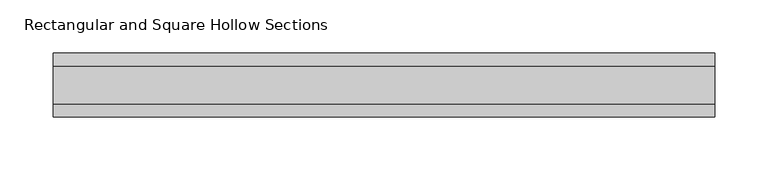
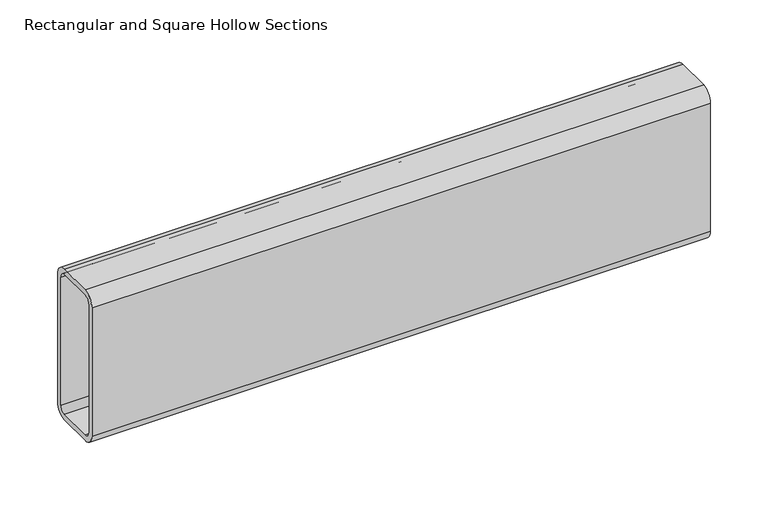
"""IFC4 building model written with IfcOpenShell, lengths in millimetres: beam geometry, Rectangular and Square Hollow Sections : TREC160x60x6."""

from ifc_helpers import new_model, si_unit, point, frame, frame_2d, origin, place, context, project, spatial, polyline, circle_curve, trimmed, segment, composite_curve, outline, extrude, source, transform, mapped, element, save


def rectangular_and_square_hollow_sections_c000528f(model_context):
    return source(origin(), model_context, "Body", "SweptSolid", [
        extrude(outline(composite_curve([segment(polyline([(30.0, 68.0), (30.0, -68.0)]), True, "CONTINUOUS"), segment(trimmed(circle_curve(frame_2d((18.0, -68.0)), 12.0), [point((30.0, -68.0))], [point((18.0, -80.0))], False, "CARTESIAN"), True, "CONTINUOUS"), segment(polyline([(18.0, -80.0), (-18.0, -80.0)]), True, "CONTINUOUS"), segment(trimmed(circle_curve(frame_2d((-18.0, -68.0)), 12.0), [point((-18.0, -80.0))], [point((-30.0, -68.0))], False, "CARTESIAN"), True, "CONTINUOUS"), segment(polyline([(-30.0, -68.0), (-30.0, 68.0)]), True, "CONTINUOUS"), segment(trimmed(circle_curve(frame_2d((-18.0, 68.0)), 12.0), [point((-30.0, 68.0))], [point((-18.0, 80.0))], False, "CARTESIAN"), True, "CONTINUOUS"), segment(polyline([(-18.0, 80.0), (18.0, 80.0)]), True, "CONTINUOUS"), segment(trimmed(circle_curve(frame_2d((18.0, 68.0)), 12.0), [point((18.0, 80.0))], [point((30.0, 68.0))], False, "CARTESIAN"), True, "CONTINUOUS")], self_intersect=False), holes=[composite_curve([segment(trimmed(circle_curve(frame_2d((-18.0, 68.0)), 6.0), [point((-18.0, 74.0))], [point((-24.0, 68.0))], True, "CARTESIAN"), True, "CONTINUOUS"), segment(polyline([(-24.0, 68.0), (-24.0, -68.0)]), True, "CONTINUOUS"), segment(trimmed(circle_curve(frame_2d((-18.0, -68.0)), 6.0), [point((-24.0, -68.0))], [point((-18.0, -74.0))], True, "CARTESIAN"), True, "CONTINUOUS"), segment(polyline([(-18.0, -74.0), (18.0, -74.0)]), True, "CONTINUOUS"), segment(trimmed(circle_curve(frame_2d((18.0, -68.0)), 6.0), [point((18.0, -74.0))], [point((24.0, -68.0))], True, "CARTESIAN"), True, "CONTINUOUS"), segment(polyline([(24.0, -68.0), (24.0, 68.0)]), True, "CONTINUOUS"), segment(trimmed(circle_curve(frame_2d((18.0, 68.0)), 6.0), [point((24.0, 68.0))], [point((18.0, 74.0))], True, "CARTESIAN"), True, "CONTINUOUS"), segment(polyline([(18.0, 74.0), (-18.0, 74.0)]), True, "CONTINUOUS")], self_intersect=False)]), frame((-292.5, 0.0, 0.0), z_axis=(1.0, 0.0, 0.0), x_axis=(0.0, 1.0, 0.0)), (0.0, 0.0, 1.0), 621.0),
    ])


if __name__ == "__main__":
    model = new_model("IFC4")
    model_context = context("Model", 3, world=origin())
    ifc_project = project(units=[si_unit("LENGTHUNIT", "METRE", prefix="MILLI")], contexts=[model_context])
    site = spatial("IfcSite", under=ifc_project)
    building = spatial("IfcBuilding", under=site)
    placement = place(None, origin())
    rectangular_and_square_hollow_sections_shape = rectangular_and_square_hollow_sections_c000528f(model_context)
    element("IfcBeam", 1, ObjectType="Rectangular and Square Hollow Sections : TREC160x60x6", at=placement, inside=building, context=model_context, shape_type="MappedRepresentation", body=[
        mapped(rectangular_and_square_hollow_sections_shape, transform((0.0, 0.0, 0.0), x_axis=(1.0, 0.0, 0.0), y_axis=(0.0, 1.0, 0.0), z_axis=(0.0, 0.0, 1.0))),
    ])
    save(model, "model.ifc")
